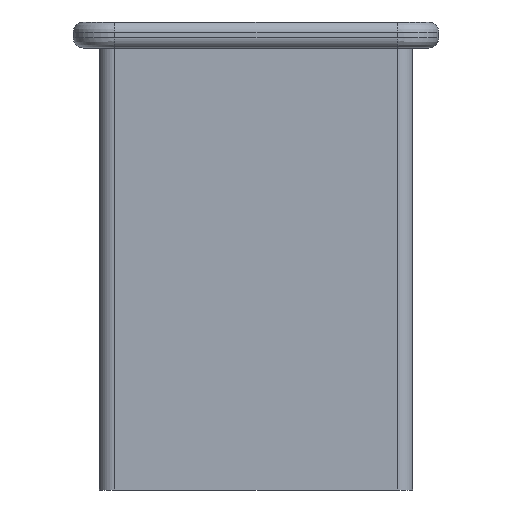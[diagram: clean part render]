
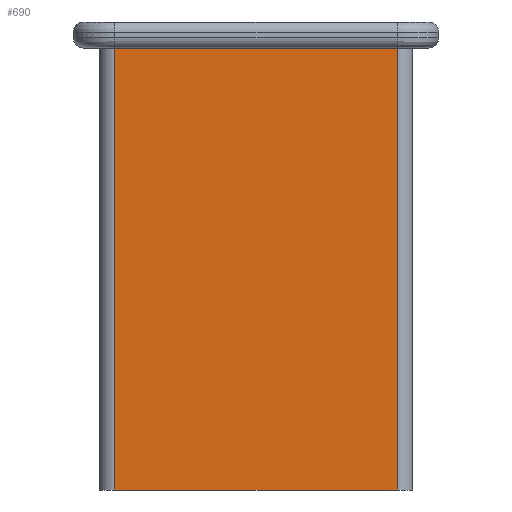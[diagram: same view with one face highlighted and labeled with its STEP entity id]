
A CAD part, left-side view. The second image highlights one B-rep face of the part: STEP entity #690.
In plain terms, the highlighted planar face has unit normal (-1, 0, 0).
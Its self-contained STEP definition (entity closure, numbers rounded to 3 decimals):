
#690=ADVANCED_FACE('',(#1292),#9552,.T.);
#1292=FACE_OUTER_BOUND('',#1974,.T.);
#1974=EDGE_LOOP('',(#4538,#4539,#4540,#4541));
#4538=ORIENTED_EDGE('',*,*,#6032,.T.);
#4539=ORIENTED_EDGE('',*,*,#6033,.T.);
#4540=ORIENTED_EDGE('',*,*,#6034,.F.);
#4541=ORIENTED_EDGE('',*,*,#6030,.F.);
#6030=EDGE_CURVE('',#8890,#8891,#6432,.T.);
#6032=EDGE_CURVE('',#8890,#8892,#6433,.T.);
#6033=EDGE_CURVE('',#8892,#8893,#6434,.T.);
#6034=EDGE_CURVE('',#8891,#8893,#6435,.T.);
#6432=(
BOUNDED_CURVE()
B_SPLINE_CURVE(1,(#18714,#18715),.UNSPECIFIED.,.F.,.F.)
B_SPLINE_CURVE_WITH_KNOTS((2,2),(0.,423.),.UNSPECIFIED.)
CURVE()
GEOMETRIC_REPRESENTATION_ITEM()
RATIONAL_B_SPLINE_CURVE((1.,1.))
REPRESENTATION_ITEM('')
);
#6433=(
BOUNDED_CURVE()
B_SPLINE_CURVE(2,(#18719,#18720,#18721),.UNSPECIFIED.,.F.,.F.)
B_SPLINE_CURVE_WITH_KNOTS((3,3),(1955.686,2275.686),
 .UNSPECIFIED.)
CURVE()
GEOMETRIC_REPRESENTATION_ITEM()
RATIONAL_B_SPLINE_CURVE((1.,1.,1.))
REPRESENTATION_ITEM('')
);
#6434=(
BOUNDED_CURVE()
B_SPLINE_CURVE(1,(#18722,#18723),.UNSPECIFIED.,.F.,.F.)
B_SPLINE_CURVE_WITH_KNOTS((2,2),(0.,423.),.UNSPECIFIED.)
CURVE()
GEOMETRIC_REPRESENTATION_ITEM()
RATIONAL_B_SPLINE_CURVE((1.,1.))
REPRESENTATION_ITEM('')
);
#6435=(
BOUNDED_CURVE()
B_SPLINE_CURVE(2,(#18724,#18725,#18726),.UNSPECIFIED.,.F.,.F.)
B_SPLINE_CURVE_WITH_KNOTS((3,3),(1955.686,2275.686),
 .UNSPECIFIED.)
CURVE()
GEOMETRIC_REPRESENTATION_ITEM()
RATIONAL_B_SPLINE_CURVE((1.,1.,1.))
REPRESENTATION_ITEM('')
);
#8890=VERTEX_POINT('',#18613);
#8891=VERTEX_POINT('',#18614);
#8892=VERTEX_POINT('',#18615);
#8893=VERTEX_POINT('',#18616);
#9552=PLANE('',#10532);
#10532=AXIS2_PLACEMENT_3D('',#18289,#12025,$);
#12025=DIRECTION('',(-1.,0.,0.));
#18289=CARTESIAN_POINT('',(1703.236,985.326,2.));
#18613=CARTESIAN_POINT('',(1703.236,985.326,2.));
#18614=CARTESIAN_POINT('',(1703.236,985.326,425.));
#18615=CARTESIAN_POINT('',(1703.236,715.326,2.));
#18616=CARTESIAN_POINT('',(1703.236,715.326,425.));
#18714=CARTESIAN_POINT('',(1703.236,985.326,2.));
#18715=CARTESIAN_POINT('',(1703.236,985.326,425.));
#18719=CARTESIAN_POINT('',(1703.236,985.326,2.));
#18720=CARTESIAN_POINT('',(1703.236,850.326,2.));
#18721=CARTESIAN_POINT('',(1703.236,715.326,2.));
#18722=CARTESIAN_POINT('',(1703.236,715.326,2.));
#18723=CARTESIAN_POINT('',(1703.236,715.326,425.));
#18724=CARTESIAN_POINT('',(1703.236,985.326,425.));
#18725=CARTESIAN_POINT('',(1703.236,850.326,425.));
#18726=CARTESIAN_POINT('',(1703.236,715.326,425.));
